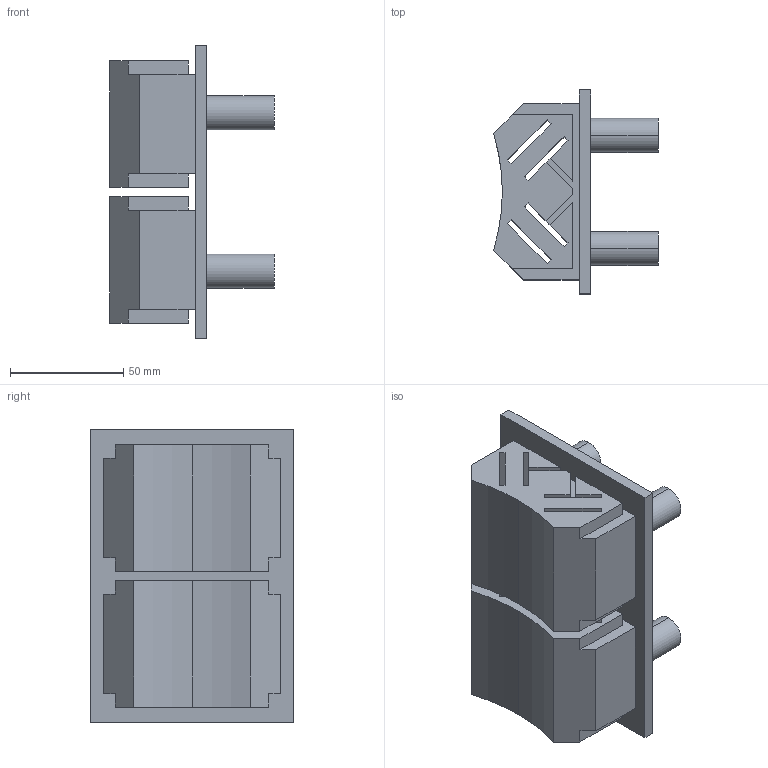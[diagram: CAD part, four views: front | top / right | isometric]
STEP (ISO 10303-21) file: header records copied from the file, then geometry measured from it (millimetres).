
FILE_DESCRIPTION(('STEP AP214'),'1');
FILE_NAME('C:/Users/mashimo/Documents/円弧動エンジン/ボア4.4ｃｍ/TurboCAD/3D/tmp0.STEP','2023-12-27T10:14:56',(' '),(' '),'Spatial InterOp 3D',' ',' ');
FILE_SCHEMA(('automotive_design'));
Length unit declared in the file: millimetre
Products named in the file (1): 1
Bounding box: 72.86 x 90 x 130 mm (x, y, z)
Volume: 334713.5 mm3; surface area: 76742.2 mm2
Topology: 1 solids, 1 shells, 106 faces, 318 edges, 212 vertices
Faces by surface type: plane 94, cylinder 12
Entity records: 4430 total; most frequent: CARTESIAN_POINT 637, ORIENTED_EDGE 636, DIRECTION 556, EDGE_CURVE 318, LINE 294, VECTOR 294, VERTEX_POINT 212, AXIS2_PLACEMENT_3D 131
